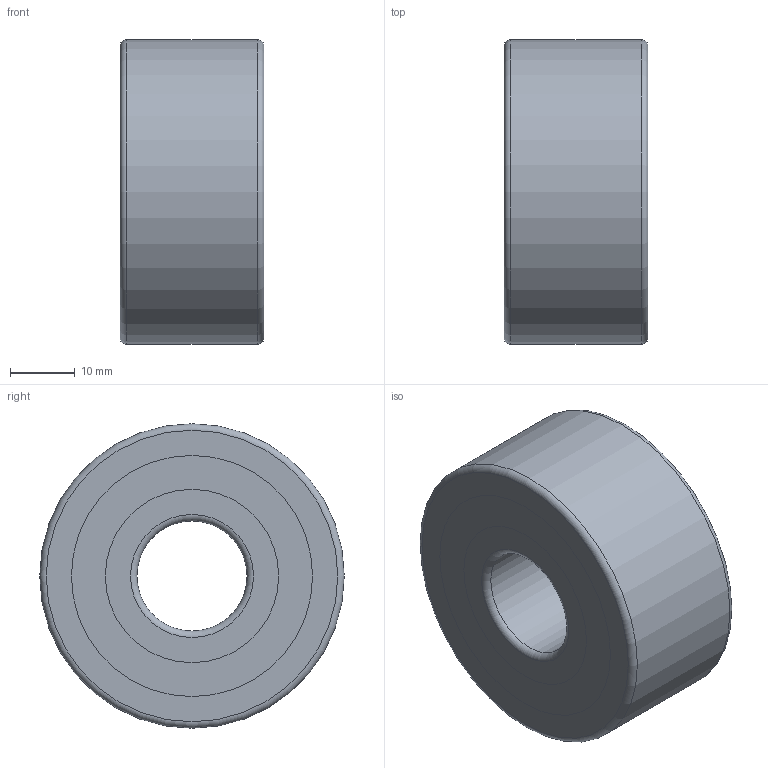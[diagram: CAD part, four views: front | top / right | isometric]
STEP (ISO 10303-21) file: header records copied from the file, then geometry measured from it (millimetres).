
FILE_DESCRIPTION(/* description */ (''),/* implementation_level */ '2;1');
FILE_NAME(/* name */ '3303-2RS.stp',/* time_stamp */ '2024-11-07T07:47:04+01:00',/* author */ ('OUPIONTEKM'),/* organization */ (''),/* preprocessor_version */ 'ST-DEVELOPER v20',/* originating_system */ 'Autodesk Inventor 2025',/* authorisation */ '');
FILE_SCHEMA (('AUTOMOTIVE_DESIGN { 1 0 10303 214 3 1 1 }'));
Length unit declared in the file: millimetre
Products named in the file (6): 3303; 3303-02; 3303-ball; 3303-cage; 3303-01; RS
Assembly tree (21 placements, depth 2):
  3303
    3303-02
    3303-ball  x16
    3303-cage  x2
    3303-01
    RS
Bounding box: 22.2 x 47 x 47 mm (x, y, z)
Volume: 25575.7 mm3; surface area: 20491.4 mm2
Topology: 22 solids, 22 shells, 90 faces, 234 edges, 156 vertices
Faces by surface type: sphere 32, plane 28, cylinder 18, torus 12
Full cylindrical faces by diameter (mm): 17 x1, 26.761 x5, 29.381 x2, 33.746 x2, 34.346 x2, 37.239 x5, 47 x1
Entity records: 2361 total; most frequent: CARTESIAN_POINT 769, DIRECTION 355, ORIENTED_EDGE 248, AXIS2_PLACEMENT_3D 170, EDGE_CURVE 124, CIRCLE 91, VERTEX_POINT 84, EDGE_LOOP 62
